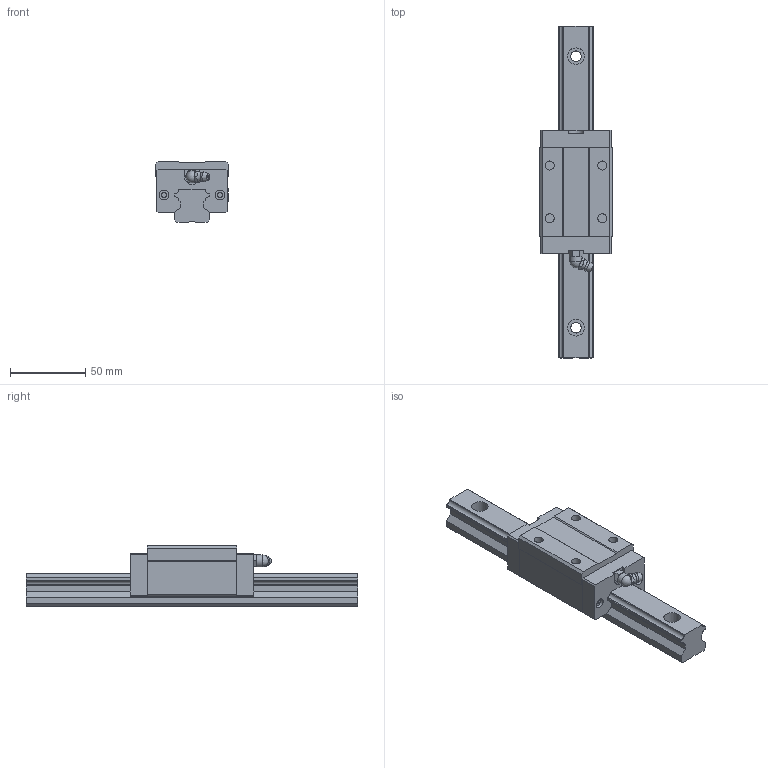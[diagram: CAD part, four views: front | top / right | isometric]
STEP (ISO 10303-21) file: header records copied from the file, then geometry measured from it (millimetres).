
FILE_DESCRIPTION(/* description */ (''),/* implementation_level */ '2;1');
FILE_NAME(/* name */ 'MSA25S',/* time_stamp */ '2003-12-29T10:30:50+08:00',/* author */ (''),/* organization */ (''),/* preprocessor_version */ 'ST-DEVELOPER v9',/* originating_system */ '',/* authorisation */ '');
FILE_SCHEMA (('CONFIG_CONTROL_DESIGN'));
Length unit declared in the file: millimetre
Products named in the file (1): zirc5932mw84
Bounding box: 48 x 220 x 40 mm (x, y, z)
Volume: 187749.4 mm3; surface area: 43086.9 mm2
Topology: 3 solids, 3 shells, 177 faces, 465 edges, 306 vertices
Faces by surface type: plane 135, cylinder 31, torus 7, sphere 2, cone 1, bspline 1
Full cylindrical faces by diameter (mm): 3.25 x4, 6 x4, 6.5 x4, 7 x4, 8 x1, 11 x4
Entity records: 5469 total; most frequent: CARTESIAN_POINT 1076, DIRECTION 876, ORIENTED_EDGE 866, EDGE_CURVE 433, LINE 308, VECTOR 308, VERTEX_POINT 300, AXIS2_PLACEMENT_3D 284
